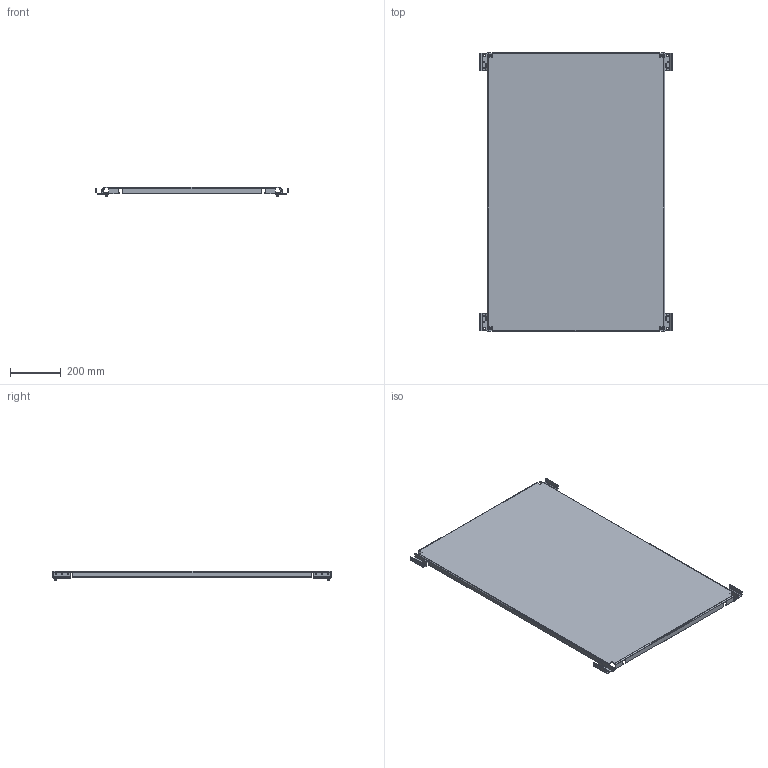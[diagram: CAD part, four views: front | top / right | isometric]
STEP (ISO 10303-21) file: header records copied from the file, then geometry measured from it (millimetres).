
FILE_DESCRIPTION (( 'STEP AP214' ), '1' );
FILE_NAME ('MSD 120.80 M ÑÁ Ïàíåëü ìîíòàæíàÿ ñåêöèîííàÿ â ñáîðå.STEP', '2024-06-14T12:09:21', ( '' ), ( '' ), 'SwSTEP 2.0', 'SolidWorks 2019', '' );
FILE_SCHEMA (( 'AUTOMOTIVE_DESIGN' ));
Length unit declared in the file: millimetre
Products named in the file (1): MSD 120.80 M ÑÁ Ïàíåëü ìîíòàæíàÿ ñåêöèîííàÿ â ñáîðå
Bounding box: 758 x 1099 x 36.58 mm (x, y, z)
Volume: 2221584.6 mm3; surface area: 1795044.1 mm2
Topology: 13 solids, 13 shells, 790 faces, 1924 edges, 1176 vertices
Faces by surface type: plane 358, cylinder 344, torus 48, bspline 16, cone 16, sphere 8
Entity records: 37512 total; most frequent: CARTESIAN_POINT 10079, DIRECTION 3998, ORIENTED_EDGE 3832, EDGE_CURVE 1916, AXIS2_PLACEMENT_3D 1487, VERTEX_POINT 1176, LINE 1024, VECTOR 1024
